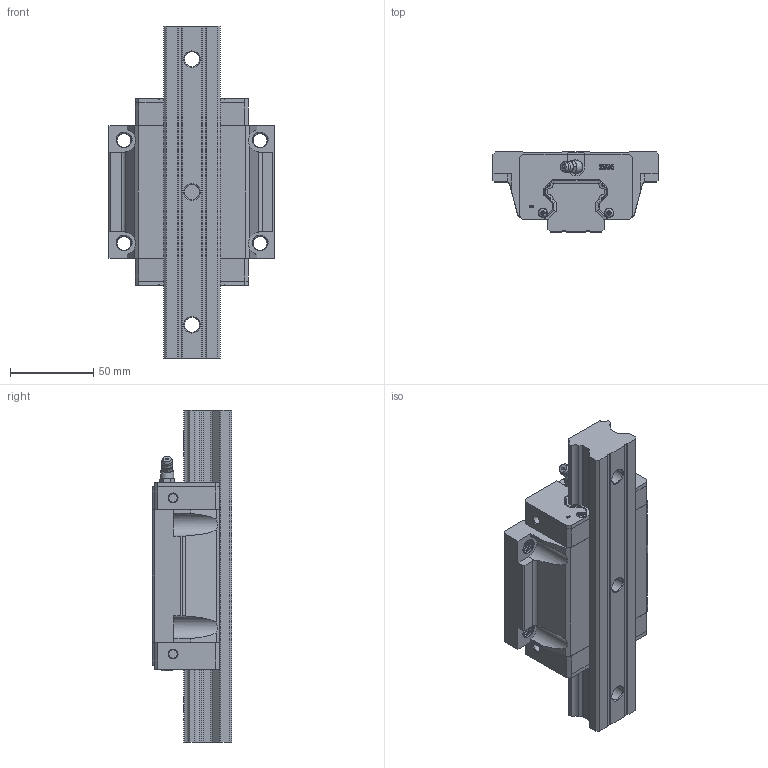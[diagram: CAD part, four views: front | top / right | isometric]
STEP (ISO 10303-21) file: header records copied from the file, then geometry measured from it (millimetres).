
FILE_DESCRIPTION(/* description */ (''),/* implementation_level */ '2;1');
FILE_NAME(/* name */ 'HBW35CC.stp',/* time_stamp */ '2024-09-29T20:59:39+08:00',/* author */ (''),/* organization */ (''),/* preprocessor_version */ 'ST-DEVELOPER v16.7',/* originating_system */ 'SIEMENS PLM Software NX 12.0',/* authorisation */ '');
FILE_SCHEMA (('AUTOMOTIVE_DESIGN { 1 0 10303 214 3 1 1 1 }'));
Products named in the file (3): HBW35CC; HBR35; HBW35CC_stp
Assembly tree (2 placements, depth 2):
  HBW35CC_stp
    HBR35
    HBW35CC
Bounding box: 100 x 48 x 200 mm (x, y, z)
Volume: 444742.3 mm3; surface area: 73516 mm2
Topology: 2 solids, 8 shells, 953 faces, 2565 edges, 1670 vertices
Faces by surface type: plane 563, cylinder 143, extrusion 136, cone 71, bspline 32, torus 7, sphere 1
Full cylindrical faces by diameter (mm): 3 x1, 3.2 x4, 3.7 x1, 5 x4, 5.5 x4, 6.4 x2, 7.8 x1, 8 x2, 8.3 x1
Entity records: 63601 total; most frequent: CARTESIAN_POINT 34891, ORIENTED_EDGE 4986, DIRECTION 4005, EDGE_CURVE 2493, VERTEX_POINT 1646, VECTOR 1633, LINE 1497, AXIS2_PLACEMENT_3D 1186
